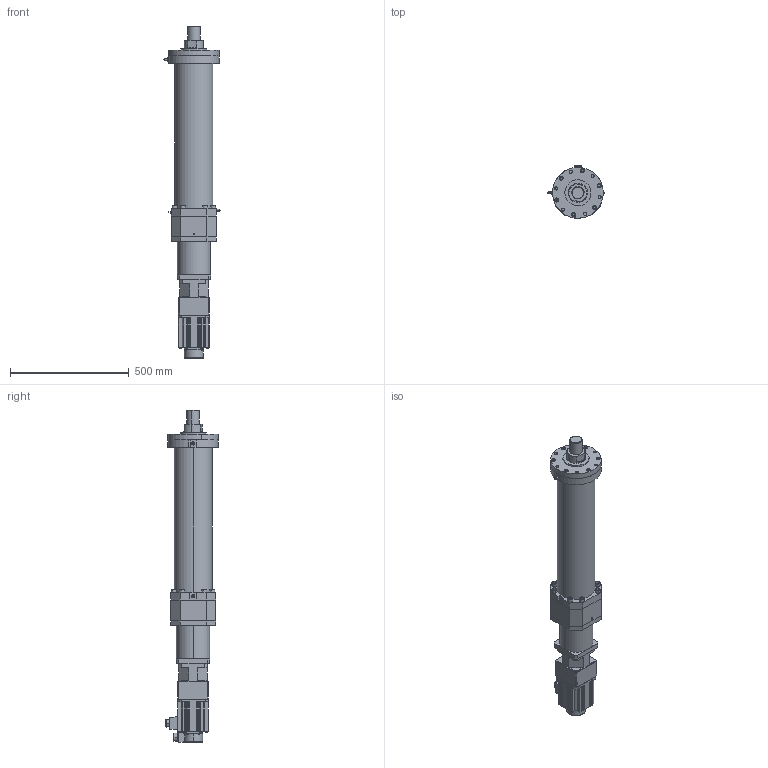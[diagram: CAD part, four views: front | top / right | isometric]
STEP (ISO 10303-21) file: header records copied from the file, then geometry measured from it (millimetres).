
FILE_DESCRIPTION (( 'STEP AP203' ), '1' );
FILE_NAME ('RKD160-D-FA-B3.STEP', '2025-01-23T10:15:14', ( '' ), ( '' ), 'SwSTEP 2.0', 'SolidWorks 2024', '' );
FILE_SCHEMA (( 'CONFIG_CONTROL_DESIGN' ));
Length unit declared in the file: millimetre
Products named in the file (14): 复件 M52X3外螺纹_1^RKD160-D-FA-B3; 复件 M10-内六角螺栓_KM100016_1^RKD160-D-FA-B3; 复件 前连接_1^RKD160-D-FA-B3; 复件 接近开关_1^RKD160-D-FA-B3; 复件 减速器PLF120^RKD160-D-FA-B3; 复件 伺服电机130x130^RKD160-D-FA-B3; 复件 后连接_1^RKD160-D-FA-B3; 复件 缸筒_1^RKD160-D-FA-B3; 复件 后法兰_1^RKD160-D-FA-B3; 复件 内六角螺栓-M14_KM140025_1^RKD160-D-FA-B3; 复件 六角螺母-M8-开关_1^RKD160-D-FA-B3; 复件 联轴器座^RKD160-D-FA-B3; 复件 前法兰_1^RKD160-D-FA-B3; RKD160-D-FA-B3
Assembly tree (29 placements, depth 2):
  RKD160-D-FA-B3
    复件 后法兰_1^RKD160-D-FA-B3
    复件 后连接_1^RKD160-D-FA-B3
    复件 内六角螺栓-M14_KM140025_1^RKD160-D-FA-B3  x8
    复件 缸筒_1^RKD160-D-FA-B3
    复件 前连接_1^RKD160-D-FA-B3
    复件 前法兰_1^RKD160-D-FA-B3
    复件 接近开关_1^RKD160-D-FA-B3  x3
    复件 六角螺母-M8-开关_1^RKD160-D-FA-B3  x3
    复件 M52X3外螺纹_1^RKD160-D-FA-B3
    复件 M10-内六角螺栓_KM100016_1^RKD160-D-FA-B3  x6
    复件 联轴器座^RKD160-D-FA-B3
    复件 减速器PLF120^RKD160-D-FA-B3
    复件 伺服电机130x130^RKD160-D-FA-B3
Bounding box: 240.08 x 222.97 x 1399.5 mm (x, y, z)
Volume: 13907460.3 mm3; surface area: 1656943.5 mm2
Topology: 30 solids, 34 shells, 1542 faces, 4042 edges, 2674 vertices
Faces by surface type: plane 756, cylinder 540, cone 135, bspline 60, torus 33, sphere 18
Entity records: 39505 total; most frequent: CARTESIAN_POINT 12088, ORIENTED_EDGE 5492, DIRECTION 4988, EDGE_CURVE 2746, VERTEX_POINT 1830, AXIS2_PLACEMENT_3D 1765, LINE 1458, VECTOR 1458
